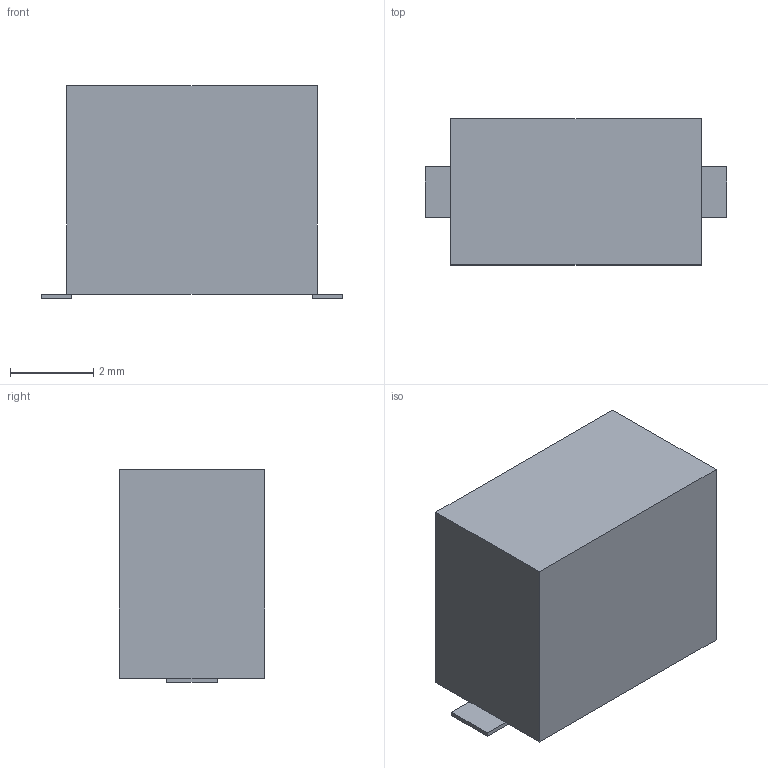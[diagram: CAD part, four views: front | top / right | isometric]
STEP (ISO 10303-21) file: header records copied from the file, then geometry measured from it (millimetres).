
FILE_DESCRIPTION(('FreeCAD Model'),'2;1');
FILE_NAME('/var/www/3D/0T/2359911.2.2.stp','2020-07-05T16:17:18',( 'Author'),(''),'Open CASCADE STEP processor 6.9','FreeCAD','Unknown' );
FILE_SCHEMA(('AUTOMOTIVE_DESIGN { 1 0 10303 214 1 1 1 1 }'));
Length unit declared in the file: millimetre
Products named in the file (3): ASSEMBLY; Body; Pins
Assembly tree (2 placements, depth 2):
  ASSEMBLY
    Body
    Pins
Bounding box: 7.22 x 3.5 x 5.1 mm (x, y, z)
Volume: 105.2 mm3; surface area: 141.3 mm2
Topology: 3 solids, 3 shells, 18 faces, 36 edges, 24 vertices
Faces by surface type: plane 18
Entity records: 1001 total; most frequent: CARTESIAN_POINT 153, DIRECTION 150, LINE 108, VECTOR 108, ORIENTED_EDGE 72, PCURVE 72, DEFINITIONAL_REPRESENTATION 72, EDGE_CURVE 36
